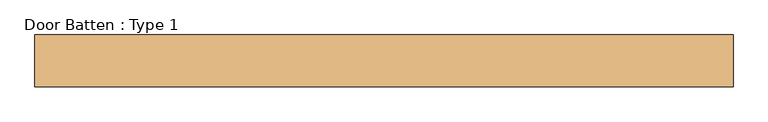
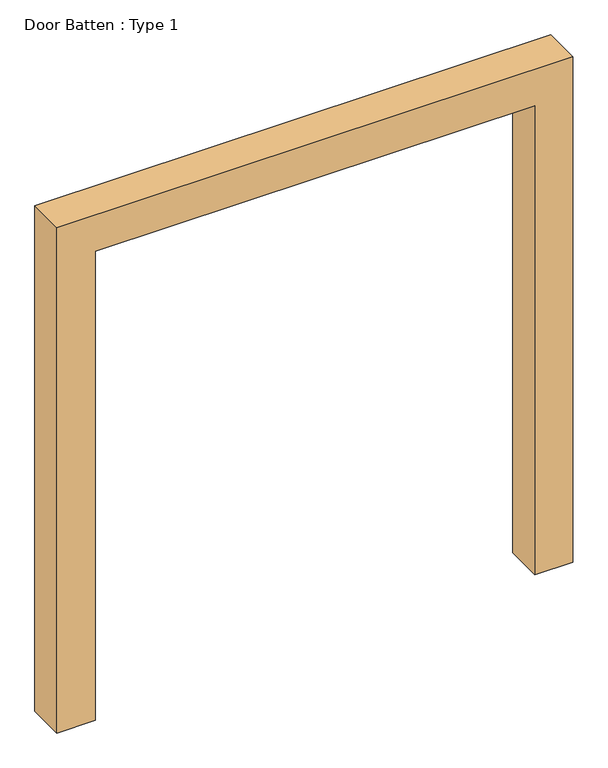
"""IFC4 building model written with IfcOpenShell, lengths in millimetres: door geometry, Door Batten : Type 1."""

from ifc_helpers import new_model, si_unit, frame, origin, place, context, project, spatial, polyline, outline, extrude, source, transform, mapped, element, save


def door_batten_type_1_30d6fa25(model_context):
    return source(origin(), model_context, "Body", "SweptSolid", [
        extrude(outline(polyline([(2708.8484214, -1224.3885868), (-85.9083785, -1224.3885868), (-85.9083785, -1024.3885868), (2508.8484214, -1024.3885868), (2508.8484214, 1274.3885868), (-85.9083785, 1274.3885868), (-85.9083785, 1474.3885868), (2708.8484214, 1474.3885868), (2708.8484214, -1224.3885868)])), frame((0.0, -310.0, 0.0), z_axis=(0.0, 1.0, 0.0), x_axis=(0.0, 0.0, 1.0)), (0.0, 0.0, 1.0), 200.0),
    ])


if __name__ == "__main__":
    model = new_model("IFC4")
    model_context = context("Model", 3, world=origin())
    ifc_project = project(units=[si_unit("LENGTHUNIT", "METRE", prefix="MILLI")], contexts=[model_context])
    site = spatial("IfcSite", under=ifc_project)
    building = spatial("IfcBuilding", under=site)
    placement = place(None, origin())
    door_batten_type_1_shape = door_batten_type_1_30d6fa25(model_context)
    element("IfcDoor", 1, ObjectType="Door Batten : Type 1", at=placement, inside=building, context=model_context, shape_type="MappedRepresentation", body=[
        mapped(door_batten_type_1_shape, transform((0.0, 0.0, 0.0), x_axis=(1.0, 0.0, 0.0), y_axis=(0.0, 1.0, 0.0), z_axis=(0.0, 0.0, 1.0))),
    ])
    save(model, "model.ifc")
